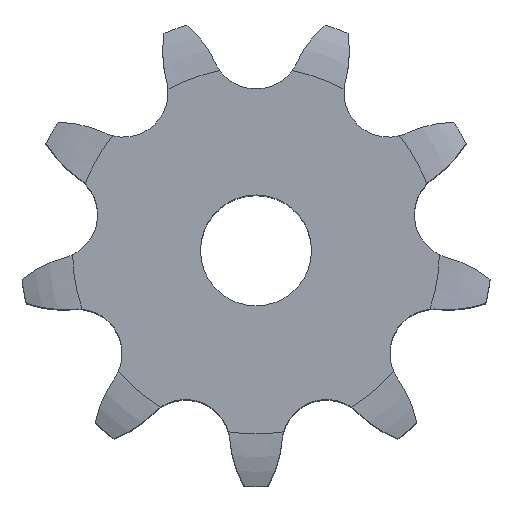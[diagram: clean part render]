
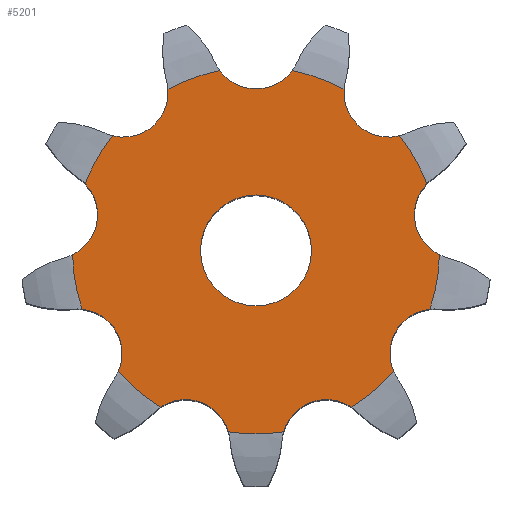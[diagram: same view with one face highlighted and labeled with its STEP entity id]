
A CAD part, top view. The second image highlights one B-rep face of the part: STEP entity #5201.
In plain terms, the highlighted planar face has unit normal (0, 0, 1).
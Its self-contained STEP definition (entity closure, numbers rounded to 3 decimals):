
#33=CARTESIAN_POINT('',(0.,0.,39.8));
#34=DIRECTION('',(0.,0.,-1.));
#35=DIRECTION('',(0.196,0.981,0.));
#36=AXIS2_PLACEMENT_3D('',#33,#34,#35);
#42=CARTESIAN_POINT('',(23.868,28.445,39.8));
#43=DIRECTION('',(0.,0.,1.));
#44=DIRECTION('',(-0.997,0.072,0.));
#45=AXIS2_PLACEMENT_3D('',#42,#43,#44);
#50=CARTESIAN_POINT('',(0.,0.,39.8));
#51=DIRECTION('',(0.,0.,-1.));
#52=DIRECTION('',(0.781,0.625,0.));
#53=AXIS2_PLACEMENT_3D('',#50,#51,#52);
#58=CARTESIAN_POINT('',(36.568,6.448,39.8));
#59=DIRECTION('',(0.,0.,1.));
#60=DIRECTION('',(-0.718,0.696,0.));
#61=AXIS2_PLACEMENT_3D('',#58,#59,#60);
#66=CARTESIAN_POINT('',(0.,0.,39.8));
#67=DIRECTION('',(0.,0.,-1.));
#68=DIRECTION('',(1.,-0.023,0.));
#69=AXIS2_PLACEMENT_3D('',#66,#67,#68);
#74=CARTESIAN_POINT('',(32.158,-18.566,39.8));
#75=DIRECTION('',(0.,0.,1.));
#76=DIRECTION('',(-0.102,0.995,0.));
#77=AXIS2_PLACEMENT_3D('',#74,#75,#76);
#82=CARTESIAN_POINT('',(0.,0.,39.8));
#83=DIRECTION('',(0.,0.,-1.));
#84=DIRECTION('',(0.751,-0.66,0.));
#85=AXIS2_PLACEMENT_3D('',#82,#83,#84);
#90=CARTESIAN_POINT('',(12.7,-34.893,39.8));
#91=DIRECTION('',(0.,0.,1.));
#92=DIRECTION('',(0.561,0.828,0.));
#93=AXIS2_PLACEMENT_3D('',#90,#91,#92);
#98=CARTESIAN_POINT('',(-12.7,-34.893,39.8));
#99=DIRECTION('',(0.,0.,1.));
#100=DIRECTION('',(0.962,0.273,0.));
#101=AXIS2_PLACEMENT_3D('',#98,#99,#100);
#106=CARTESIAN_POINT('',(0.,0.,39.8));
#107=DIRECTION('',(0.,0.,-1.));
#108=DIRECTION('',(-0.52,-0.854,0.));
#109=AXIS2_PLACEMENT_3D('',#106,#107,#108);
#114=CARTESIAN_POINT('',(-32.158,-18.566,39.8));
#115=DIRECTION('',(0.,0.,1.));
#116=DIRECTION('',(0.913,-0.409,0.));
#117=AXIS2_PLACEMENT_3D('',#114,#115,#116);
#122=CARTESIAN_POINT('',(0.,0.,39.8));
#123=DIRECTION('',(0.,0.,-1.));
#124=DIRECTION('',(-0.947,-0.32,0.));
#125=AXIS2_PLACEMENT_3D('',#122,#123,#124);
#130=CARTESIAN_POINT('',(-36.568,6.448,39.8));
#131=DIRECTION('',(0.,0.,1.));
#132=DIRECTION('',(0.436,-0.9,0.));
#133=AXIS2_PLACEMENT_3D('',#130,#131,#132);
#138=CARTESIAN_POINT('',(0.,0.,39.8));
#139=DIRECTION('',(0.,0.,-1.));
#140=DIRECTION('',(-0.931,0.364,0.));
#141=AXIS2_PLACEMENT_3D('',#138,#139,#140);
#146=CARTESIAN_POINT('',(-23.868,28.445,39.8));
#147=DIRECTION('',(0.,0.,1.));
#148=DIRECTION('',(-0.244,-0.97,0.));
#149=AXIS2_PLACEMENT_3D('',#146,#147,#148);
#154=CARTESIAN_POINT('',(0.,0.,39.8));
#155=DIRECTION('',(0.,0.,-1.));
#156=DIRECTION('',(-0.48,0.877,0.));
#157=AXIS2_PLACEMENT_3D('',#154,#155,#156);
#162=CARTESIAN_POINT('',(0.,37.132,39.8));
#163=DIRECTION('',(0.,0.,1.));
#164=DIRECTION('',(-0.81,-0.586,0.));
#165=AXIS2_PLACEMENT_3D('',#162,#163,#164);
#170=CARTESIAN_POINT('',(0.,0.,39.8));
#171=DIRECTION('',(0.,0.,1.));
#172=DIRECTION('',(1.,0.,0.));
#173=AXIS2_PLACEMENT_3D('',#170,#171,#172);
#178=CARTESIAN_POINT('',(0.,0.,39.8));
#179=DIRECTION('',(0.,0.,1.));
#180=DIRECTION('',(-1.,0.,0.));
#181=AXIS2_PLACEMENT_3D('',#178,#179,#180);
#234=CARTESIAN_POINT('',(0.,0.,39.8));
#235=DIRECTION('',(0.,0.,1.));
#236=DIRECTION('',(-0.151,-0.989,0.));
#237=AXIS2_PLACEMENT_3D('',#234,#235,#236);
#3451=CARTESIAN_POINT('',(-4.986,-32.701,39.8));
#4600=CARTESIAN_POINT('',(6.499,32.434,39.8));
#4601=CARTESIAN_POINT('',(15.87,29.023,39.8));
#4602=VERTEX_POINT('',#4600);
#4603=VERTEX_POINT('',#4601);
#4604=CARTESIAN_POINT('',(25.826,20.668,39.8));
#4605=CARTESIAN_POINT('',(30.813,12.032,39.8));
#4606=VERTEX_POINT('',#4604);
#4607=VERTEX_POINT('',#4605);
#4608=CARTESIAN_POINT('',(33.07,-0.768,39.8));
#4609=CARTESIAN_POINT('',(31.338,-10.589,39.8));
#4610=VERTEX_POINT('',#4608);
#4611=VERTEX_POINT('',#4609);
#4612=CARTESIAN_POINT('',(24.839,-21.845,39.8));
#4613=CARTESIAN_POINT('',(17.2,-28.255,39.8));
#4614=VERTEX_POINT('',#4612);
#4615=VERTEX_POINT('',#4613);
#4616=CARTESIAN_POINT('',(-17.2,-28.255,39.8));
#4617=CARTESIAN_POINT('',(-24.839,-21.845,39.8));
#4618=VERTEX_POINT('',#4616);
#4619=VERTEX_POINT('',#4617);
#4620=CARTESIAN_POINT('',(-31.338,-10.589,39.8));
#4621=CARTESIAN_POINT('',(-33.07,-0.768,39.8));
#4622=VERTEX_POINT('',#4620);
#4623=VERTEX_POINT('',#4621);
#4624=CARTESIAN_POINT('',(-30.813,12.032,39.8));
#4625=CARTESIAN_POINT('',(-25.826,20.668,39.8));
#4626=VERTEX_POINT('',#4624);
#4627=VERTEX_POINT('',#4625);
#4671=VERTEX_POINT('',#3451);
#4686=CARTESIAN_POINT('',(4.986,-32.701,39.8));
#4687=VERTEX_POINT('',#4686);
#4690=CARTESIAN_POINT('',(-15.87,29.023,39.8));
#4691=VERTEX_POINT('',#4690);
#4694=CARTESIAN_POINT('',(-6.499,32.434,39.8));
#4695=VERTEX_POINT('',#4694);
#4700=CARTESIAN_POINT('',(10.,0.,39.8));
#4701=CARTESIAN_POINT('',(-10.,0.,39.8));
#4702=VERTEX_POINT('',#4700);
#4703=VERTEX_POINT('',#4701);
#5152=CARTESIAN_POINT('',(0.,0.,39.8));
#5153=DIRECTION('',(0.,0.,1.));
#5154=DIRECTION('',(1.,0.,0.));
#5155=AXIS2_PLACEMENT_3D('',#5152,#5153,#5154);
#5156=PLANE('',#5155);
#5158=ORIENTED_EDGE('',*,*,#5157,.T.);
#5160=ORIENTED_EDGE('',*,*,#5159,.T.);
#5162=ORIENTED_EDGE('',*,*,#5161,.T.);
#5164=ORIENTED_EDGE('',*,*,#5163,.T.);
#5166=ORIENTED_EDGE('',*,*,#5165,.T.);
#5168=ORIENTED_EDGE('',*,*,#5167,.T.);
#5170=ORIENTED_EDGE('',*,*,#5169,.T.);
#5172=ORIENTED_EDGE('',*,*,#5171,.T.);
#5174=ORIENTED_EDGE('',*,*,#5173,.F.);
#5176=ORIENTED_EDGE('',*,*,#5175,.T.);
#5178=ORIENTED_EDGE('',*,*,#5177,.T.);
#5180=ORIENTED_EDGE('',*,*,#5179,.T.);
#5182=ORIENTED_EDGE('',*,*,#5181,.T.);
#5184=ORIENTED_EDGE('',*,*,#5183,.T.);
#5186=ORIENTED_EDGE('',*,*,#5185,.T.);
#5188=ORIENTED_EDGE('',*,*,#5187,.T.);
#5190=ORIENTED_EDGE('',*,*,#5189,.T.);
#5192=ORIENTED_EDGE('',*,*,#5191,.T.);
#5193=EDGE_LOOP('',(#5158,#5160,#5162,#5164,#5166,#5168,#5170,#5172,#5174,#5176,
#5178,#5180,#5182,#5184,#5186,#5188,#5190,#5192));
#5194=FACE_OUTER_BOUND('',#5193,.F.);
#5196=ORIENTED_EDGE('',*,*,#5195,.T.);
#5198=ORIENTED_EDGE('',*,*,#5197,.T.);
#5199=EDGE_LOOP('',(#5196,#5198));
#5200=FACE_BOUND('',#5199,.F.);
#5201=ADVANCED_FACE('',(#5194,#5200),#5156,.T.);
#37=CIRCLE('',#36,33.078);
#46=CIRCLE('',#45,8.019);
#54=CIRCLE('',#53,33.078);
#62=CIRCLE('',#61,8.019);
#70=CIRCLE('',#69,33.078);
#78=CIRCLE('',#77,8.019);
#86=CIRCLE('',#85,33.078);
#94=CIRCLE('',#93,8.019);
#102=CIRCLE('',#101,8.019);
#110=CIRCLE('',#109,33.078);
#118=CIRCLE('',#117,8.019);
#126=CIRCLE('',#125,33.078);
#134=CIRCLE('',#133,8.019);
#142=CIRCLE('',#141,33.078);
#150=CIRCLE('',#149,8.019);
#158=CIRCLE('',#157,33.078);
#166=CIRCLE('',#165,8.019);
#174=CIRCLE('',#173,10.);
#182=CIRCLE('',#181,10.);
#238=CIRCLE('',#237,33.078);
#5157=EDGE_CURVE('',#4602,#4603,#37,.T.);
#5159=EDGE_CURVE('',#4603,#4606,#46,.T.);
#5161=EDGE_CURVE('',#4606,#4607,#54,.T.);
#5163=EDGE_CURVE('',#4607,#4610,#62,.T.);
#5165=EDGE_CURVE('',#4610,#4611,#70,.T.);
#5167=EDGE_CURVE('',#4611,#4614,#78,.T.);
#5169=EDGE_CURVE('',#4614,#4615,#86,.T.);
#5171=EDGE_CURVE('',#4615,#4687,#94,.T.);
#5173=EDGE_CURVE('',#4671,#4687,#238,.T.);
#5175=EDGE_CURVE('',#4671,#4618,#102,.T.);
#5177=EDGE_CURVE('',#4618,#4619,#110,.T.);
#5179=EDGE_CURVE('',#4619,#4622,#118,.T.);
#5181=EDGE_CURVE('',#4622,#4623,#126,.T.);
#5183=EDGE_CURVE('',#4623,#4626,#134,.T.);
#5185=EDGE_CURVE('',#4626,#4627,#142,.T.);
#5187=EDGE_CURVE('',#4627,#4691,#150,.T.);
#5189=EDGE_CURVE('',#4691,#4695,#158,.T.);
#5191=EDGE_CURVE('',#4695,#4602,#166,.T.);
#5195=EDGE_CURVE('',#4702,#4703,#174,.T.);
#5197=EDGE_CURVE('',#4703,#4702,#182,.T.);
